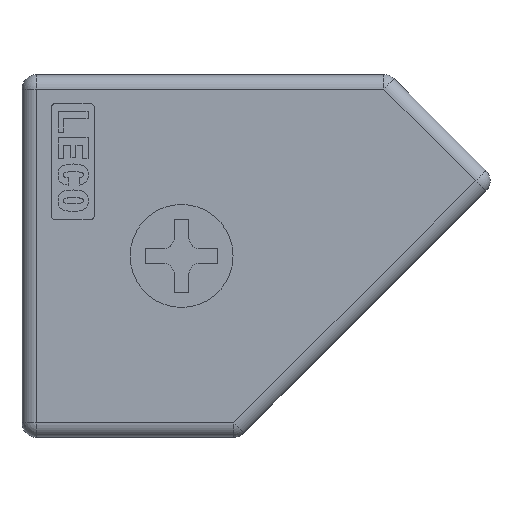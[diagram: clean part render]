
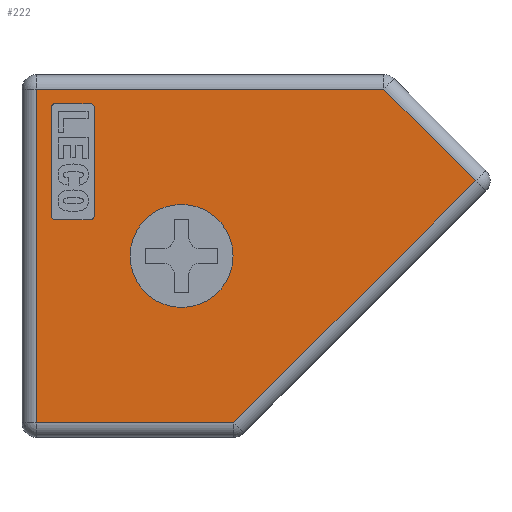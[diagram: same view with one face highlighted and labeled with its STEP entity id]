
A CAD part, top view. The second image highlights one B-rep face of the part: STEP entity #222.
In plain terms, the highlighted planar face has unit normal (0, 0, 1).
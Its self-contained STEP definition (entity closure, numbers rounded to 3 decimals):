
#222=ADVANCED_FACE('',(#549,#550,#551),#552,.F.);
#549=FACE_BOUND('',#987,.T.);
#550=FACE_OUTER_BOUND('',#988,.T.);
#551=FACE_BOUND('',#989,.T.);
#552=PLANE('',#990);
#987=EDGE_LOOP('',(#1610,#1611,#1612,#1613,#1614,#1615,#1616,#1617));
#988=EDGE_LOOP('',(#1618,#1619,#1620,#1621,#1622));
#989=EDGE_LOOP('',(#1623));
#990=AXIS2_PLACEMENT_3D('',#1624,#1625,#1626);
#1610=ORIENTED_EDGE('',*,*,#2744,.F.);
#1611=ORIENTED_EDGE('',*,*,#2653,.F.);
#1612=ORIENTED_EDGE('',*,*,#2756,.F.);
#1613=ORIENTED_EDGE('',*,*,#2704,.F.);
#1614=ORIENTED_EDGE('',*,*,#2789,.F.);
#1615=ORIENTED_EDGE('',*,*,#2790,.F.);
#1616=ORIENTED_EDGE('',*,*,#2791,.F.);
#1617=ORIENTED_EDGE('',*,*,#2792,.F.);
#1618=ORIENTED_EDGE('',*,*,#2793,.T.);
#1619=ORIENTED_EDGE('',*,*,#2794,.T.);
#1620=ORIENTED_EDGE('',*,*,#2795,.T.);
#1621=ORIENTED_EDGE('',*,*,#2796,.F.);
#1622=ORIENTED_EDGE('',*,*,#2797,.F.);
#1623=ORIENTED_EDGE('',*,*,#2798,.T.);
#1624=CARTESIAN_POINT('',(0.0,-25.0,3.));
#1625=DIRECTION('',(0.0,0.0,-1.0));
#1626=DIRECTION('',(0.0,1.0,0.0));
#2653=EDGE_CURVE('',#3187,#3188,#3189,.T.);
#2704=EDGE_CURVE('',#3278,#3279,#3280,.T.);
#2744=EDGE_CURVE('',#3188,#3345,#3346,.T.);
#2756=EDGE_CURVE('',#3279,#3187,#3363,.T.);
#2789=EDGE_CURVE('',#3417,#3278,#3418,.T.);
#2790=EDGE_CURVE('',#3419,#3417,#3420,.T.);
#2791=EDGE_CURVE('',#3421,#3419,#3422,.T.);
#2792=EDGE_CURVE('',#3345,#3421,#3423,.T.);
#2793=EDGE_CURVE('',#3424,#3425,#3426,.T.);
#2794=EDGE_CURVE('',#3425,#3427,#3428,.F.);
#2795=EDGE_CURVE('',#3427,#3429,#3430,.F.);
#2796=EDGE_CURVE('',#3431,#3429,#3432,.T.);
#2797=EDGE_CURVE('',#3424,#3431,#3433,.T.);
#2798=EDGE_CURVE('',#3434,#3434,#3435,.T.);
#3187=VERTEX_POINT('',#3938);
#3188=VERTEX_POINT('',#3939);
#3189=CIRCLE('',#3940,0.3);
#3278=VERTEX_POINT('',#4062);
#3279=VERTEX_POINT('',#4063);
#3280=CIRCLE('',#4064,0.3);
#3345=VERTEX_POINT('',#4159);
#3346=LINE('',#4160,#4161);
#3363=LINE('',#4186,#4187);
#3417=VERTEX_POINT('',#4264);
#3418=LINE('',#4265,#4266);
#3419=VERTEX_POINT('',#4267);
#3420=CIRCLE('',#4268,0.3);
#3421=VERTEX_POINT('',#4269);
#3422=LINE('',#4270,#4271);
#3423=CIRCLE('',#4272,0.3);
#3424=VERTEX_POINT('',#4273);
#3425=VERTEX_POINT('',#4274);
#3426=LINE('',#4275,#4276);
#3427=VERTEX_POINT('',#4277);
#3428=LINE('',#4278,#4279);
#3429=VERTEX_POINT('',#4280);
#3430=LINE('',#4281,#4282);
#3431=VERTEX_POINT('',#4283);
#3432=LINE('',#4284,#4285);
#3433=LINE('',#4286,#4287);
#3434=VERTEX_POINT('',#4288);
#3435=CIRCLE('',#4289,3.55);
#3938=CARTESIAN_POINT('',(5.,-2.3,3.));
#3939=CARTESIAN_POINT('',(4.7,-2.,3.));
#3940=AXIS2_PLACEMENT_3D('',#4968,#4969,#4970);
#4062=CARTESIAN_POINT('',(4.7,-10.,3.));
#4063=CARTESIAN_POINT('',(5.,-9.7,3.));
#4064=AXIS2_PLACEMENT_3D('',#5028,#5029,#5030);
#4159=CARTESIAN_POINT('',(2.3,-2.,3.));
#4160=CARTESIAN_POINT('',(4.7,-2.,3.));
#4161=VECTOR('',#5075,1.0);
#4186=CARTESIAN_POINT('',(5.,-9.7,3.));
#4187=VECTOR('',#5084,1.0);
#4264=CARTESIAN_POINT('',(2.3,-10.,3.));
#4265=CARTESIAN_POINT('',(2.3,-10.,3.));
#4266=VECTOR('',#5123,1.0);
#4267=CARTESIAN_POINT('',(2.,-9.7,3.));
#4268=AXIS2_PLACEMENT_3D('',#5124,#5125,#5126);
#4269=CARTESIAN_POINT('',(2.,-2.3,3.));
#4270=CARTESIAN_POINT('',(2.,-2.3,3.));
#4271=VECTOR('',#5127,1.0);
#4272=AXIS2_PLACEMENT_3D('',#5128,#5129,#5130);
#4273=CARTESIAN_POINT('',(1.0,-24.0,3.));
#4274=CARTESIAN_POINT('',(14.586,-24.0,3.));
#4275=CARTESIAN_POINT('',(0.,-24.0,3.));
#4276=VECTOR('',#5131,1.0);
#4277=CARTESIAN_POINT('',(31.263,-7.322,3.));
#4278=CARTESIAN_POINT('',(6.793,-31.793,3.));
#4279=VECTOR('',#5132,1.0);
#4280=CARTESIAN_POINT('',(24.941,-1.,3.));
#4281=CARTESIAN_POINT('',(24.471,-0.529,3.));
#4282=VECTOR('',#5133,1.0);
#4283=CARTESIAN_POINT('',(1.,-1.,3.));
#4284=CARTESIAN_POINT('',(0.,-1.,3.));
#4285=VECTOR('',#5134,1.0);
#4286=CARTESIAN_POINT('',(1.0,-25.0,3.));
#4287=VECTOR('',#5135,1.0);
#4288=CARTESIAN_POINT('',(11.,-8.95,3.));
#4289=AXIS2_PLACEMENT_3D('',#5136,#5137,#5138);
#4968=CARTESIAN_POINT('',(4.7,-2.3,3.));
#4969=DIRECTION('',(0.0,0.0,1.0));
#4970=DIRECTION('',(0.0,-1.0,0.0));
#5028=CARTESIAN_POINT('',(4.7,-9.7,3.));
#5029=DIRECTION('',(0.0,0.0,1.0));
#5030=DIRECTION('',(0.0,-1.0,0.0));
#5075=DIRECTION('',(-1.0,0.0,0.0));
#5084=DIRECTION('',(0.0,1.0,0.0));
#5123=DIRECTION('',(1.0,0.,0.0));
#5124=CARTESIAN_POINT('',(2.3,-9.7,3.));
#5125=DIRECTION('',(0.0,0.0,1.0));
#5126=DIRECTION('',(0.0,-1.0,0.0));
#5127=DIRECTION('',(0.,-1.0,0.0));
#5128=CARTESIAN_POINT('',(2.3,-2.3,3.));
#5129=DIRECTION('',(0.0,0.0,1.0));
#5130=DIRECTION('',(0.0,-1.0,0.0));
#5131=DIRECTION('',(1.0,0.0,0.0));
#5132=DIRECTION('',(-0.707,-0.707,0.0));
#5133=DIRECTION('',(0.707,-0.707,0.0));
#5134=DIRECTION('',(1.0,0.0,0.0));
#5135=DIRECTION('',(0.0,1.0,0.0));
#5136=CARTESIAN_POINT('',(11.,-12.5,3.));
#5137=DIRECTION('',(0.0,0.0,-1.0));
#5138=DIRECTION('',(0.0,1.0,0.0));
